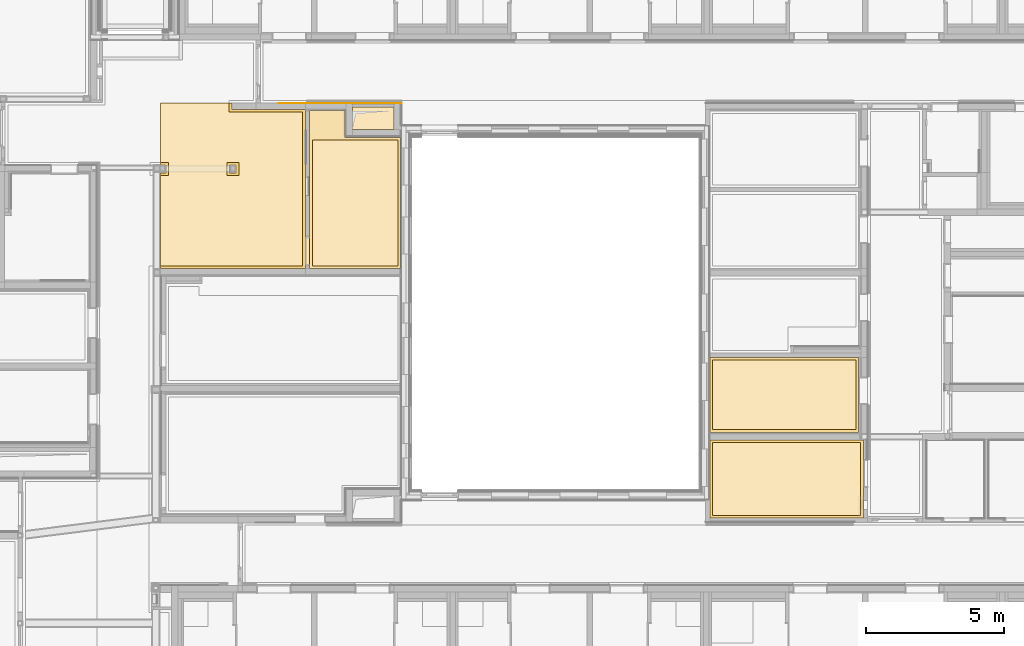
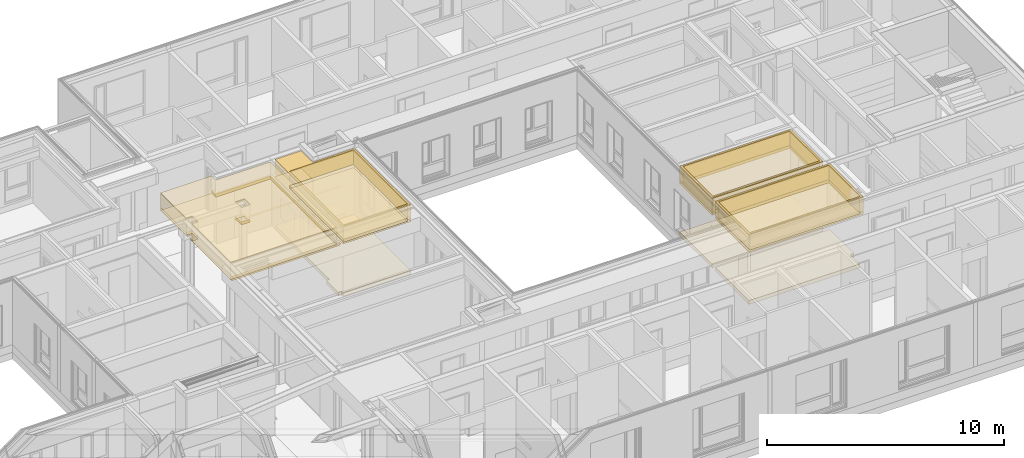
# One storey, part 183 of 207: 34 coverings.
"""IFC4 building model written with IfcOpenShell, lengths in metres."""

from ifc_helpers import new_model, entity, si_unit, converted_unit, derived_unit, frame, frame_2d, origin, origin_with_axes, place, context, subcontext, project, spatial, polyline, rectangle, outline, extrude, material, layer, layer_set, layer_usage, element, save


model = new_model("IFC4")

# Units and contexts
model_context = context("Model", 3, precision=1e-05, world=origin())
body_context = subcontext(model_context, "Body", "Model", "MODEL_VIEW")
ifc_project = project(units=[si_unit("LENGTHUNIT", "METRE"), si_unit("AREAUNIT", "SQUARE_METRE"), si_unit("VOLUMEUNIT", "CUBIC_METRE"), si_unit("MASSUNIT", "GRAM", prefix="KILO"), converted_unit("PLANEANGLEUNIT", "DEGREE", entity("IfcPlaneAngleMeasure", 0.0174532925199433), si_unit("PLANEANGLEUNIT", "RADIAN"), dimensions=[0, 0, 0, 0, 0, 0, 0]), derived_unit("THERMALTRANSMITTANCEUNIT", [(si_unit("POWERUNIT", "WATT"), 1), (si_unit("THERMODYNAMICTEMPERATUREUNIT", "KELVIN"), -1), (si_unit("LENGTHUNIT", "METRE"), -2)]), derived_unit("VOLUMETRICFLOWRATEUNIT", [(si_unit("LENGTHUNIT", "METRE"), 3), (converted_unit("TIMEUNIT", "hour", entity("IfcTimeMeasure", 3600.0), si_unit("TIMEUNIT", "SECOND"), dimensions=[0, 0, 1, 0, 0, 0, 0]), -1), (si_unit("LENGTHUNIT", "METRE"), -1)])], contexts=[model_context])

# Site, building, storey
site_placement = place(None, origin())
site = spatial("IfcSite", under=ifc_project, at=site_placement, Name="Psychiatrie Neubau Wunstorf", CompositionType="ELEMENT")
building_placement = place(site_placement, origin())
building = spatial("IfcBuilding", under=site, at=building_placement, Name="Neubau H2 Stationsgebäude", CompositionType="ELEMENT")
storey_placement = place(building_placement, frame((0.0, 0.0, -0.2)))
storey = spatial("IfcBuildingStorey", under=building, at=storey_placement, Name="H2 Ebene 0", CompositionType="ELEMENT", Elevation=-0.2)

# Covering
ifc_material_1 = material(Name="SE")
ifc_layer_1 = layer(ifc_material_1, 0.19)
ifc_layer_set_1 = layer_set([ifc_layer_1])
ifc_layer_usage_1 = layer_usage(ifc_layer_set_1, "AXIS3", "POSITIVE", 0.0)
covering_1_placement = place(storey_placement, frame((77.4, 21.875, 0.0)))
element("IfcCovering", 1, at=covering_1_placement, inside=storey, material=ifc_layer_usage_1, Name="Estrich", PredefinedType="FLOORING", context=body_context, shape_type="SweptSolid", body=[
    extrude(rectangle(XDim=0.811, YDim=1.5, at=frame_2d((0.75, -0.4055), x_axis=(0.0, -1.0))), frame((0.0, 0.811, 0.0), z_axis=(0.0, 0.0, 1.0), x_axis=(1.0, 0.0, 0.0)), (0.0, 0.0, 1.0), 0.19),
])

# Space
space_1_placement = place(storey_placement, frame((74.055, 22.036, 0.0)))
space_1 = spatial("IfcSpace", under=storey, at=space_1_placement, Name="WUN-H2-E00-F09", CompositionType="ELEMENT")

# Covering
ifc_material_2 = material(Name="97")
ifc_layer_2 = layer(ifc_material_2, 0.001)
ifc_layer_set_2 = layer_set([ifc_layer_2])
ifc_layer_usage_2 = layer_usage(ifc_layer_set_2, "AXIS3", "POSITIVE", 0.0)
covering_2_placement = place(space_1_placement, frame((0.660000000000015, 0.800000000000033, 0.8)))
element("IfcCovering", 2, at=covering_2_placement, inside=space_1, material=ifc_layer_usage_2, Name="Handlauf", PredefinedType="CLADDING", context=body_context, shape_type="SweptSolid", body=[
    extrude(rectangle(XDim=0.1, YDim=4.46499963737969, at=frame_2d((2.23249981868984, 0.05), x_axis=(0.0, 1.0))), frame((0.0, 0.0, 0.1), z_axis=(0.0, 1.0, 0.0), x_axis=(1.0, 0.0, 0.0)), (0.0, 0.0, 1.0), 0.001),
])

# Space
space_2_placement = place(storey_placement, frame((70.4300000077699, 16.8325, 0.0)))
space_2 = spatial("IfcSpace", under=storey, at=space_2_placement, Name="WUN-H2-E00-F09a", CompositionType="ELEMENT")

# Coverings
ifc_material_3 = material(Name="A1")
ifc_layer_3 = layer(ifc_material_3, 0.15)
ifc_layer_set_3 = layer_set([ifc_layer_3])
ifc_layer_usage_3 = layer_usage(ifc_layer_set_3, "AXIS3", "POSITIVE", 0.0)
covering_3_placement = place(space_2_placement, frame((0.0, 0.0, 2.85)))
element("IfcCovering", 3, at=covering_3_placement, inside=space_2, material=ifc_layer_usage_3, Name="Gipsfaserplatten 2-lagig (BSK)", PredefinedType="CEILING", context=body_context, shape_type="SweptSolid", body=[
    extrude(outline(polyline([(0.0, 6.00350000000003), (0.0, 5.90350000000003), (5.15399755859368, 5.90350000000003), (5.15399755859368, 0.33200000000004), (2.48999462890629, 0.33200000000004), (2.48999462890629, 0.0), (2.59199755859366, 0.0), (2.59199755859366, 0.23200000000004), (5.25399755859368, 0.23200000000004), (5.25399755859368, 6.00350000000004), (0.0, 6.00350000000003)])), frame((2.43363635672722e-06, 6.00350000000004, 0.0), z_axis=(0.0, 0.0, -1.0), x_axis=(1.0, 0.0, 0.0)), (0.0, 0.0, 1.0), 0.15),
    extrude(outline(polyline([(0.432000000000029, 0.481998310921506), (0.0, 0.481998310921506), (0.0, 0.0), (0.432000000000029, 0.0), (0.432000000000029, 0.481998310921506)]), holes=[polyline([(0.1, 0.1), (0.1, 0.381999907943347), (0.331999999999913, 0.382), (0.331999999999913, 0.1), (0.1, 0.1)])]), frame((2.40999706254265, 3.8534951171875, 0.0), z_axis=(0.0, 0.0, -1.0), x_axis=(1.0, 0.0, 0.0)), (0.0, 0.0, 1.0), 0.15),
    extrude(outline(polyline([(0.296, 0.482000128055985), (2.43363635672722e-06, 0.482000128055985), (2.43363635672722e-06, 0.382000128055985), (0.196, 0.381997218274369), (0.196, 0.100000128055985), (0.0, 0.1000030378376), (0.0, 0.0), (0.296, 3.03783759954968e-06), (0.296, 0.482000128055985)])), frame((0.0, 3.8534981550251, 0.0), z_axis=(0.0, 0.0, -1.0), x_axis=(1.0, 0.0, 0.0)), (0.0, 0.0, 1.0), 0.15),
])
ifc_material_4 = material(Name="D1")
ifc_layer_4 = layer(ifc_material_4, 0.001)
ifc_layer_set_4 = layer_set([ifc_layer_4])
ifc_layer_usage_4 = layer_usage(ifc_layer_set_4, "AXIS3", "POSITIVE", 0.0)
covering_4_placement = place(space_2_placement, frame((0.0, 0.0, 2.7)))
element("IfcCovering", 4, at=covering_4_placement, inside=space_2, material=ifc_layer_usage_4, Name="Gipsfaserplatten 2-lagig (BSK)", PredefinedType="CEILING", context=body_context, shape_type="SweptSolid", body=[
    extrude(outline(polyline([(0.0, 6.00350000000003), (0.0, 5.90350000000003), (5.15399755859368, 5.90350000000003), (5.15399755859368, 0.33200000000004), (2.48999462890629, 0.33200000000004), (2.48999462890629, 0.0), (2.59199755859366, 0.0), (2.59199755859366, 0.23200000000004), (5.25399755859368, 0.23200000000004), (5.25399755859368, 6.00350000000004), (0.0, 6.00350000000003)])), frame((2.43363635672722e-06, 6.00350000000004, 0.0), z_axis=(0.0, 0.0, -1.0), x_axis=(1.0, 0.0, 0.0)), (0.0, 0.0, 1.0), 0.001),
    extrude(outline(polyline([(0.432000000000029, 0.481998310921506), (0.0, 0.481998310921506), (0.0, 0.0), (0.432000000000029, 0.0), (0.432000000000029, 0.481998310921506)]), holes=[polyline([(0.1, 0.1), (0.1, 0.381999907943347), (0.331999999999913, 0.382), (0.331999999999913, 0.1), (0.1, 0.1)])]), frame((2.40999706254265, 3.8534951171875, 0.0), z_axis=(0.0, 0.0, -1.0), x_axis=(1.0, 0.0, 0.0)), (0.0, 0.0, 1.0), 0.001),
    extrude(outline(polyline([(0.296, 0.482000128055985), (2.43363635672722e-06, 0.482000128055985), (2.43363635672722e-06, 0.382000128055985), (0.196, 0.381997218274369), (0.196, 0.100000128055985), (0.0, 0.1000030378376), (0.0, 0.0), (0.296, 3.03783759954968e-06), (0.296, 0.482000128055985)])), frame((0.0, 3.8534981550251, 0.0), z_axis=(0.0, 0.0, -1.0), x_axis=(1.0, 0.0, 0.0)), (0.0, 0.0, 1.0), 0.001),
])
ifc_material_5 = material()
ifc_layer_5 = layer(ifc_material_5, 0.036)
ifc_layer_set_5 = layer_set([ifc_layer_5])
ifc_layer_usage_5 = layer_usage(ifc_layer_set_5, "AXIS3", "POSITIVE", 0.0)
covering_5_placement = place(space_2_placement, frame((0.0, 0.100000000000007, 3.6)))
element("IfcCovering", 5, at=covering_5_placement, inside=space_2, material=ifc_layer_usage_5, Name="Gipsfaserplatten 2-lagig (BSK)", PredefinedType="CEILING", context=body_context, shape_type="SweptSolid", body=[
    extrude(outline(polyline([(0.0, 0.0), (2.48999706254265, 0.0), (2.48999706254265, 0.332000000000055), (5.15399999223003, 0.332000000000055), (5.15399999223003, 5.90350000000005), (2.43363635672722e-06, 5.90350000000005), (2.43363635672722e-06, 2.63200197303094), (0.296, 2.63200197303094), (0.296, 2.15000488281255), (0.0, 2.15000184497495), (0.0, 0.0)]), holes=[polyline([(2.40999706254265, 2.63200319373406), (2.84199706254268, 2.63200319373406), (2.84199706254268, 2.15000488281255), (2.40999706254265, 2.15000488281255), (2.40999706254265, 2.63200319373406)])]), frame((0.0, 5.90350000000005, 0.0), z_axis=(0.0, 0.0, -1.0), x_axis=(1.0, 0.0, 0.0)), (0.0, 0.0, 1.0), 0.036),
])
ifc_material_6 = material(Name="Installationshöhe")
ifc_layer_6 = layer(ifc_material_6, 0.714)
ifc_layer_set_6 = layer_set([ifc_layer_6])
ifc_layer_usage_6 = layer_usage(ifc_layer_set_6, "AXIS3", "POSITIVE", 0.0)
covering_6_placement = place(space_2_placement, frame((0.0, 0.100000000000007, 3.564)))
element("IfcCovering", 6, at=covering_6_placement, inside=space_2, material=ifc_layer_usage_6, Name="Gipsfaserplatten 2-lagig (BSK)", PredefinedType="CEILING", context=body_context, shape_type="SweptSolid", body=[
    extrude(outline(polyline([(0.0, 0.0), (2.48999706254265, 0.0), (2.48999706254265, 0.332000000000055), (5.15399999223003, 0.332000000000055), (5.15399999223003, 5.90350000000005), (2.43363635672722e-06, 5.90350000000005), (2.43363635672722e-06, 2.63200197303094), (0.296, 2.63200197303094), (0.296, 2.15000488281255), (0.0, 2.15000184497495), (0.0, 0.0)]), holes=[polyline([(2.40999706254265, 2.63200319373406), (2.84199706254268, 2.63200319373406), (2.84199706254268, 2.15000488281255), (2.40999706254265, 2.15000488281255), (2.40999706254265, 2.63200319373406)])]), frame((0.0, 5.90350000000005, 0.0), z_axis=(0.0, 0.0, -1.0), x_axis=(1.0, 0.0, 0.0)), (0.0, 0.0, 1.0), 0.714),
])
ifc_material_7 = material(Name="Aa")
ifc_layer_7 = layer(ifc_material_7, 0.15)
ifc_layer_set_7 = layer_set([ifc_layer_7])
ifc_layer_usage_7 = layer_usage(ifc_layer_set_7, "AXIS3", "POSITIVE", 0.0)
covering_7_placement = place(space_2_placement, frame((0.0, 0.100000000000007, 2.85)))
element("IfcCovering", 7, at=covering_7_placement, inside=space_2, material=ifc_layer_usage_7, Name="Gipsfaserplatten 2-lagig (BSK)", PredefinedType="CEILING", context=body_context, shape_type="SweptSolid", body=[
    extrude(outline(polyline([(0.0, 0.0), (2.48999706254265, 0.0), (2.48999706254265, 0.332000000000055), (5.15399999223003, 0.332000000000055), (5.15399999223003, 5.90350000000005), (2.43363635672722e-06, 5.90350000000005), (2.43363635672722e-06, 2.63200197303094), (0.296, 2.63200197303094), (0.296, 2.15000488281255), (0.0, 2.15000184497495), (0.0, 0.0)]), holes=[polyline([(2.40999706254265, 2.63200319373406), (2.84199706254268, 2.63200319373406), (2.84199706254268, 2.15000488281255), (2.40999706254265, 2.15000488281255), (2.40999706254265, 2.63200319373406)])]), frame((0.0, 5.90350000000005, 0.0), z_axis=(0.0, 0.0, -1.0), x_axis=(1.0, 0.0, 0.0)), (0.0, 0.0, 1.0), 0.15),
])
ifc_material_8 = material(Name="D1")
ifc_layer_8 = layer(ifc_material_8, 0.001)
ifc_layer_set_8 = layer_set([ifc_layer_8])
ifc_layer_usage_8 = layer_usage(ifc_layer_set_8, "AXIS3", "POSITIVE", 0.0)
covering_8_placement = place(space_2_placement, frame((0.0, 0.100000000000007, 2.7)))
element("IfcCovering", 8, at=covering_8_placement, inside=space_2, material=ifc_layer_usage_8, Name="Gipsfaserplatten 2-lagig (BSK)", PredefinedType="CEILING", context=body_context, shape_type="SweptSolid", body=[
    extrude(outline(polyline([(0.0, 0.0), (2.48999706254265, 0.0), (2.48999706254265, 0.332000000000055), (5.15399999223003, 0.332000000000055), (5.15399999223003, 5.90350000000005), (2.43363635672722e-06, 5.90350000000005), (2.43363635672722e-06, 2.63200197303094), (0.296, 2.63200197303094), (0.296, 2.15000488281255), (0.0, 2.15000184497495), (0.0, 0.0)]), holes=[polyline([(2.40999706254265, 2.63200319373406), (2.84199706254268, 2.63200319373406), (2.84199706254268, 2.15000488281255), (2.40999706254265, 2.15000488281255), (2.40999706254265, 2.63200319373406)])]), frame((0.0, 5.90350000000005, 0.0), z_axis=(0.0, 0.0, -1.0), x_axis=(1.0, 0.0, 0.0)), (0.0, 0.0, 1.0), 0.001),
])

# Space
space_3_placement = place(storey_placement, frame((75.834, 16.8325, 0.0)))
space_3 = spatial("IfcSpace", under=storey, at=space_3_placement, Name="WUN-H2-E00-056", CompositionType="ELEMENT")

# Coverings
ifc_material_9 = material(Name="Ku1")
ifc_layer_9 = layer(ifc_material_9, 0.2)
ifc_layer_set_9 = layer_set([ifc_layer_9])
ifc_layer_usage_9 = layer_usage(ifc_layer_set_9, "AXIS3", "POSITIVE", 0.0)
covering_9_placement = place(space_3_placement, frame((-0.15, 0.0, 0.0)))
element("IfcCovering", 9, at=covering_9_placement, inside=space_3, material=ifc_layer_usage_9, Name="PVC Bahnenware Holzoptik", PredefinedType="FLOORING", context=body_context, shape_type="SweptSolid", body=[
    extrude(rectangle(XDim=0.15, YDim=1.01, at=frame_2d((-0.075, -0.505), x_axis=(-1.0, 0.0))), frame((0.15, 1.135, 0.0), z_axis=(0.0, 0.0, 1.0), x_axis=(1.0, 0.0, 0.0)), (0.0, 0.0, 1.0), 0.2),
    extrude(outline(polyline([(0.0, 0.0), (3.30500000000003, 0.0), (3.305, 4.76250036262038), (1.28600036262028, 4.76250036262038), (1.28600036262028, 5.73150000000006), (0.0, 5.7315), (0.0, 0.0)])), frame((0.15, 0.0, 0.0), z_axis=(0.0, 0.0, 1.0), x_axis=(1.0, 0.0, 0.0)), (0.0, 0.0, 1.0), 0.2),
])
ifc_material_10 = material()
ifc_layer_10 = layer(ifc_material_10, 0.036)
ifc_layer_set_10 = layer_set([ifc_layer_10])
ifc_layer_usage_10 = layer_usage(ifc_layer_set_10, "AXIS3", "POSITIVE", 0.0)
covering_10_placement = place(space_3_placement, frame((0.0, 0.0, 3.6)))
element("IfcCovering", 10, at=covering_10_placement, inside=space_3, material=ifc_layer_usage_10, Name="Gipsfaserplatten 2-lagig (BSK)", PredefinedType="CEILING", context=body_context, shape_type="SweptSolid", body=[
    extrude(outline(polyline([(0.0, 0.0), (1.28600036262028, 0.0), (1.28600036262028, 0.968999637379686), (3.30500000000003, 0.968999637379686), (3.30500000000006, 5.73150000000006), (0.0, 5.73150000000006), (0.0, 0.0)]), holes=[polyline([(0.100000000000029, 5.63150000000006), (3.20500000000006, 5.63150000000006), (3.20500000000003, 1.06899963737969), (0.1, 1.06900000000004), (0.100000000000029, 5.63150000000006)])]), frame((0.0, 5.73150000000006, 0.0), z_axis=(0.0, 0.0, -1.0), x_axis=(1.0, 0.0, 0.0)), (0.0, 0.0, 1.0), 0.036),
])
ifc_material_11 = material(Name="Installationshöhe")
ifc_layer_11 = layer(ifc_material_11, 0.714)
ifc_layer_set_11 = layer_set([ifc_layer_11])
ifc_layer_usage_11 = layer_usage(ifc_layer_set_11, "AXIS3", "POSITIVE", 0.0)
covering_11_placement = place(space_3_placement, frame((0.0, 0.0, 3.564)))
element("IfcCovering", 11, at=covering_11_placement, inside=space_3, material=ifc_layer_usage_11, Name="Gipsfaserplatten 2-lagig (BSK)", PredefinedType="CEILING", context=body_context, shape_type="SweptSolid", body=[
    extrude(outline(polyline([(0.0, 0.0), (1.28600036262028, 0.0), (1.28600036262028, 0.968999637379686), (3.30500000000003, 0.968999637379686), (3.30500000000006, 5.73150000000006), (0.0, 5.73150000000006), (0.0, 0.0)]), holes=[polyline([(0.100000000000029, 5.63150000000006), (3.20500000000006, 5.63150000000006), (3.20500000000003, 1.06899963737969), (0.1, 1.06900000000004), (0.100000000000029, 5.63150000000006)])]), frame((0.0, 5.73150000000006, 0.0), z_axis=(0.0, 0.0, -1.0), x_axis=(1.0, 0.0, 0.0)), (0.0, 0.0, 1.0), 0.714),
])
ifc_material_12 = material(Name="A1")
ifc_layer_12 = layer(ifc_material_12, 0.15)
ifc_layer_set_12 = layer_set([ifc_layer_12])
ifc_layer_usage_12 = layer_usage(ifc_layer_set_12, "AXIS3", "POSITIVE", 0.0)
covering_12_placement = place(space_3_placement, frame((0.0, 0.0, 2.85)))
element("IfcCovering", 12, at=covering_12_placement, inside=space_3, material=ifc_layer_usage_12, Name="Gipsfaserplatten 2-lagig (BSK)", PredefinedType="CEILING", context=body_context, shape_type="SweptSolid", body=[
    extrude(outline(polyline([(0.0, 0.0), (1.28600036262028, 0.0), (1.28600036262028, 0.968999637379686), (3.30500000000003, 0.968999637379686), (3.30500000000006, 5.73150000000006), (0.0, 5.73150000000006), (0.0, 0.0)]), holes=[polyline([(0.100000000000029, 5.63150000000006), (3.20500000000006, 5.63150000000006), (3.20500000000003, 1.06899963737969), (0.1, 1.06900000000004), (0.100000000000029, 5.63150000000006)])]), frame((0.0, 5.73150000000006, 0.0), z_axis=(0.0, 0.0, -1.0), x_axis=(1.0, 0.0, 0.0)), (0.0, 0.0, 1.0), 0.15),
])
ifc_material_13 = material(Name="D1")
ifc_layer_13 = layer(ifc_material_13, 0.001)
ifc_layer_set_13 = layer_set([ifc_layer_13])
ifc_layer_usage_13 = layer_usage(ifc_layer_set_13, "AXIS3", "POSITIVE", 0.0)
covering_13_placement = place(space_3_placement, frame((0.0, 0.0, 2.7)))
element("IfcCovering", 13, at=covering_13_placement, inside=space_3, material=ifc_layer_usage_13, Name="Gipsfaserplatten 2-lagig (BSK)", PredefinedType="CEILING", context=body_context, shape_type="SweptSolid", body=[
    extrude(outline(polyline([(0.0, 0.0), (1.28600036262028, 0.0), (1.28600036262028, 0.968999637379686), (3.30500000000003, 0.968999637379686), (3.30500000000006, 5.73150000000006), (0.0, 5.73150000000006), (0.0, 0.0)]), holes=[polyline([(0.100000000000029, 5.63150000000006), (3.20500000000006, 5.63150000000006), (3.20500000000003, 1.06899963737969), (0.1, 1.06900000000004), (0.100000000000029, 5.63150000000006)])]), frame((0.0, 5.73150000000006, 0.0), z_axis=(0.0, 0.0, -1.0), x_axis=(1.0, 0.0, 0.0)), (0.0, 0.0, 1.0), 0.001),
])
ifc_material_14 = material()
ifc_layer_14 = layer(ifc_material_14, 0.036)
ifc_layer_set_14 = layer_set([ifc_layer_14])
ifc_layer_usage_14 = layer_usage(ifc_layer_set_14, "AXIS3", "POSITIVE", 0.0)
covering_14_placement = place(space_3_placement, frame((0.1, 0.1, 3.6)))
element("IfcCovering", 14, at=covering_14_placement, inside=space_3, material=ifc_layer_usage_14, Name="Gipsfaserplatten 2-lagig (BSK)", PredefinedType="CEILING", context=body_context, shape_type="SweptSolid", body=[
    extrude(rectangle(XDim=4.56250000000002, YDim=3.10500000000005, at=frame_2d((1.5525, -2.28125018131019), x_axis=(-6.3789217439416e-15, -1.0))), frame((0.0, 0.0, 0.0), z_axis=(0.0, 0.0, -1.0), x_axis=(1.0, 0.0, 0.0)), (0.0, 0.0, 1.0), 0.036),
])
ifc_material_15 = material(Name="Installationshöhe")
ifc_layer_15 = layer(ifc_material_15, 0.714)
ifc_layer_set_15 = layer_set([ifc_layer_15])
ifc_layer_usage_15 = layer_usage(ifc_layer_set_15, "AXIS3", "POSITIVE", 0.0)
covering_15_placement = place(space_3_placement, frame((0.1, 0.1, 3.564)))
element("IfcCovering", 15, at=covering_15_placement, inside=space_3, material=ifc_layer_usage_15, Name="Gipsfaserplatten 2-lagig (BSK)", PredefinedType="CEILING", context=body_context, shape_type="SweptSolid", body=[
    extrude(rectangle(XDim=4.56250000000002, YDim=3.10500000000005, at=frame_2d((1.5525, -2.28125018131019), x_axis=(-6.3789217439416e-15, -1.0))), frame((0.0, 0.0, 0.0), z_axis=(0.0, 0.0, -1.0), x_axis=(1.0, 0.0, 0.0)), (0.0, 0.0, 1.0), 0.714),
])
ifc_material_16 = material(Name="Aa")
ifc_layer_16 = layer(ifc_material_16, 0.15)
ifc_layer_set_16 = layer_set([ifc_layer_16])
ifc_layer_usage_16 = layer_usage(ifc_layer_set_16, "AXIS3", "POSITIVE", 0.0)
covering_16_placement = place(space_3_placement, frame((0.1, 0.1, 2.85)))
element("IfcCovering", 16, at=covering_16_placement, inside=space_3, material=ifc_layer_usage_16, Name="Gipsfaserplatten 2-lagig (BSK)", PredefinedType="CEILING", context=body_context, shape_type="SweptSolid", body=[
    extrude(rectangle(XDim=4.56250000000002, YDim=3.10500000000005, at=frame_2d((1.5525, -2.28125018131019), x_axis=(-6.3789217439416e-15, -1.0))), frame((0.0, 0.0, 0.0), z_axis=(0.0, 0.0, -1.0), x_axis=(1.0, 0.0, 0.0)), (0.0, 0.0, 1.0), 0.15),
])
ifc_material_17 = material(Name="D1")
ifc_layer_17 = layer(ifc_material_17, 0.001)
ifc_layer_set_17 = layer_set([ifc_layer_17])
ifc_layer_usage_17 = layer_usage(ifc_layer_set_17, "AXIS3", "POSITIVE", 0.0)
covering_17_placement = place(space_3_placement, frame((0.1, 0.1, 2.7)))
element("IfcCovering", 17, at=covering_17_placement, inside=space_3, material=ifc_layer_usage_17, Name="Gipsfaserplatten 2-lagig (BSK)", PredefinedType="CEILING", context=body_context, shape_type="SweptSolid", body=[
    extrude(rectangle(XDim=4.56250000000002, YDim=3.10500000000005, at=frame_2d((1.5525, -2.28125018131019), x_axis=(-6.3789217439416e-15, -1.0))), frame((0.0, 0.0, 0.0), z_axis=(0.0, 0.0, -1.0), x_axis=(1.0, 0.0, 0.0)), (0.0, 0.0, 1.0), 0.001),
])

# Space
space_4_placement = place(storey_placement, frame((90.361, 10.8824998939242, 0.0)))
space_4 = spatial("IfcSpace", under=storey, at=space_4_placement, Name="WUN-H2-E00-083", CompositionType="ELEMENT")

# Coverings
ifc_material_18 = material(Name="Ku1")
ifc_layer_18 = layer(ifc_material_18, 0.2)
ifc_layer_set_18 = layer_set([ifc_layer_18])
ifc_layer_usage_18 = layer_usage(ifc_layer_set_18, "AXIS3", "POSITIVE", 0.0)
covering_18_placement = place(space_4_placement, origin())
element("IfcCovering", 18, at=covering_18_placement, inside=space_4, material=ifc_layer_usage_18, Name="PVC Bahnenware Holzoptik", PredefinedType="FLOORING", context=body_context, shape_type="SweptSolid", body=[
    extrude(rectangle(XDim=2.72850007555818, YDim=5.4, at=frame_2d((2.7, -1.36425003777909), x_axis=(0.0, -1.0))), frame((0.0, 2.72850007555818, 0.0), z_axis=(0.0, 0.0, 1.0), x_axis=(1.0, 0.0, 0.0)), (0.0, 0.0, 1.0), 0.2),
])
ifc_material_19 = material()
ifc_layer_19 = layer(ifc_material_19, 0.036)
ifc_layer_set_19 = layer_set([ifc_layer_19])
ifc_layer_usage_19 = layer_usage(ifc_layer_set_19, "AXIS3", "POSITIVE", 0.0)
covering_19_placement = place(space_4_placement, frame((0.0, 0.0, 3.6)))
element("IfcCovering", 19, at=covering_19_placement, inside=space_4, material=ifc_layer_usage_19, Name="Gipsfaserplatten 2-lagig (BSK)", PredefinedType="CEILING", context=body_context, shape_type="SweptSolid", body=[
    extrude(outline(polyline([(0.0, 0.0), (5.4, 0.0), (5.4, 2.72850007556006), (0.0, 2.72850007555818), (0.0, 0.0)]), holes=[polyline([(0.0999999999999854, 2.62850007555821), (5.29999997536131, 2.62850007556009), (5.29999997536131, 0.0999999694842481), (0.0999999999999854, 0.0999999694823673), (0.0999999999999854, 2.62850007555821)])]), frame((0.0, 2.72850007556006, 0.0), z_axis=(0.0, 0.0, -1.0), x_axis=(1.0, 0.0, 0.0)), (0.0, 0.0, 1.0), 0.036),
])
ifc_material_20 = material(Name="Installationshöhe")
ifc_layer_20 = layer(ifc_material_20, 0.714)
ifc_layer_set_20 = layer_set([ifc_layer_20])
ifc_layer_usage_20 = layer_usage(ifc_layer_set_20, "AXIS3", "POSITIVE", 0.0)
covering_20_placement = place(space_4_placement, frame((0.0, 0.0, 3.564)))
element("IfcCovering", 20, at=covering_20_placement, inside=space_4, material=ifc_layer_usage_20, Name="Gipsfaserplatten 2-lagig (BSK)", PredefinedType="CEILING", context=body_context, shape_type="SweptSolid", body=[
    extrude(outline(polyline([(0.0, 0.0), (5.4, 0.0), (5.4, 2.72850007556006), (0.0, 2.72850007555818), (0.0, 0.0)]), holes=[polyline([(0.0999999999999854, 2.62850007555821), (5.29999997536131, 2.62850007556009), (5.29999997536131, 0.0999999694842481), (0.0999999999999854, 0.0999999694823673), (0.0999999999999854, 2.62850007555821)])]), frame((0.0, 2.72850007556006, 0.0), z_axis=(0.0, 0.0, -1.0), x_axis=(1.0, 0.0, 0.0)), (0.0, 0.0, 1.0), 0.714),
])
ifc_material_21 = material(Name="A1")
ifc_layer_21 = layer(ifc_material_21, 0.15)
ifc_layer_set_21 = layer_set([ifc_layer_21])
ifc_layer_usage_21 = layer_usage(ifc_layer_set_21, "AXIS3", "POSITIVE", 0.0)
covering_21_placement = place(space_4_placement, frame((0.0, 0.0, 2.85)))
element("IfcCovering", 21, at=covering_21_placement, inside=space_4, material=ifc_layer_usage_21, Name="Gipsfaserplatten 2-lagig (BSK)", PredefinedType="CEILING", context=body_context, shape_type="SweptSolid", body=[
    extrude(outline(polyline([(0.0, 0.0), (5.4, 0.0), (5.4, 2.72850007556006), (0.0, 2.72850007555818), (0.0, 0.0)]), holes=[polyline([(0.0999999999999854, 2.62850007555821), (5.29999997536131, 2.62850007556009), (5.29999997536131, 0.0999999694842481), (0.0999999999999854, 0.0999999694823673), (0.0999999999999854, 2.62850007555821)])]), frame((0.0, 2.72850007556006, 0.0), z_axis=(0.0, 0.0, -1.0), x_axis=(1.0, 0.0, 0.0)), (0.0, 0.0, 1.0), 0.15),
])
ifc_material_22 = material(Name="D1")
ifc_layer_22 = layer(ifc_material_22, 0.001)
ifc_layer_set_22 = layer_set([ifc_layer_22])
ifc_layer_usage_22 = layer_usage(ifc_layer_set_22, "AXIS3", "POSITIVE", 0.0)
covering_22_placement = place(space_4_placement, frame((0.0, 0.0, 2.7)))
element("IfcCovering", 22, at=covering_22_placement, inside=space_4, material=ifc_layer_usage_22, Name="Gipsfaserplatten 2-lagig (BSK)", PredefinedType="CEILING", context=body_context, shape_type="SweptSolid", body=[
    extrude(outline(polyline([(0.0, 0.0), (5.4, 0.0), (5.4, 2.72850007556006), (0.0, 2.72850007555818), (0.0, 0.0)]), holes=[polyline([(0.0999999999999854, 2.62850007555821), (5.29999997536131, 2.62850007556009), (5.29999997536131, 0.0999999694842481), (0.0999999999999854, 0.0999999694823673), (0.0999999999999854, 2.62850007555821)])]), frame((0.0, 2.72850007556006, 0.0), z_axis=(0.0, 0.0, -1.0), x_axis=(1.0, 0.0, 0.0)), (0.0, 0.0, 1.0), 0.001),
])
ifc_material_23 = material()
ifc_layer_23 = layer(ifc_material_23, 0.036)
ifc_layer_set_23 = layer_set([ifc_layer_23])
ifc_layer_usage_23 = layer_usage(ifc_layer_set_23, "AXIS3", "POSITIVE", 0.0)
covering_23_placement = place(space_4_placement, frame((0.0999999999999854, 0.0999999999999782, 3.6)))
element("IfcCovering", 23, at=covering_23_placement, inside=space_4, material=ifc_layer_usage_23, Name="Gipsfaserplatten 2-lagig (BSK)", PredefinedType="CEILING", context=body_context, shape_type="SweptSolid", body=[
    extrude(rectangle(XDim=2.52850010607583, YDim=5.19999997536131, at=frame_2d((2.59999998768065, -1.26425005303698), x_axis=(0.0, -1.0))), frame((0.0, 0.0, 0.0), z_axis=(0.0, 0.0, -1.0), x_axis=(1.0, 0.0, 0.0)), (0.0, 0.0, 1.0), 0.036),
])
ifc_material_24 = material(Name="Installationshöhe")
ifc_layer_24 = layer(ifc_material_24, 0.714)
ifc_layer_set_24 = layer_set([ifc_layer_24])
ifc_layer_usage_24 = layer_usage(ifc_layer_set_24, "AXIS3", "POSITIVE", 0.0)
covering_24_placement = place(space_4_placement, frame((0.0999999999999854, 0.0999999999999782, 3.564)))
element("IfcCovering", 24, at=covering_24_placement, inside=space_4, material=ifc_layer_usage_24, Name="Gipsfaserplatten 2-lagig (BSK)", PredefinedType="CEILING", context=body_context, shape_type="SweptSolid", body=[
    extrude(rectangle(XDim=2.52850010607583, YDim=5.19999997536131, at=frame_2d((2.59999998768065, -1.26425005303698), x_axis=(0.0, -1.0))), frame((0.0, 0.0, 0.0), z_axis=(0.0, 0.0, -1.0), x_axis=(1.0, 0.0, 0.0)), (0.0, 0.0, 1.0), 0.714),
])
ifc_material_25 = material(Name="Aa")
ifc_layer_25 = layer(ifc_material_25, 0.15)
ifc_layer_set_25 = layer_set([ifc_layer_25])
ifc_layer_usage_25 = layer_usage(ifc_layer_set_25, "AXIS3", "POSITIVE", 0.0)
covering_25_placement = place(space_4_placement, frame((0.0999999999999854, 0.0999999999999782, 2.85)))
element("IfcCovering", 25, at=covering_25_placement, inside=space_4, material=ifc_layer_usage_25, Name="Gipsfaserplatten 2-lagig (BSK)", PredefinedType="CEILING", context=body_context, shape_type="SweptSolid", body=[
    extrude(rectangle(XDim=2.52850010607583, YDim=5.19999997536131, at=frame_2d((2.59999998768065, -1.26425005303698), x_axis=(0.0, -1.0))), frame((0.0, 0.0, 0.0), z_axis=(0.0, 0.0, -1.0), x_axis=(1.0, 0.0, 0.0)), (0.0, 0.0, 1.0), 0.15),
])

# Space
space_5_placement = place(storey_placement, frame((90.361, 7.77499990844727, 0.0)))
space_5 = spatial("IfcSpace", under=storey, at=space_5_placement, Name="WUN-H2-E00-082", CompositionType="ELEMENT")

# Coverings
ifc_material_26 = material(Name="Ku1")
ifc_layer_26 = layer(ifc_material_26, 0.2)
ifc_layer_set_26 = layer_set([ifc_layer_26])
ifc_layer_usage_26 = layer_usage(ifc_layer_set_26, "AXIS3", "POSITIVE", 0.0)
covering_26_placement = place(space_5_placement, origin())
element("IfcCovering", 26, at=covering_26_placement, inside=space_5, material=ifc_layer_usage_26, Name="PVC Bahnenware Holzoptik", PredefinedType="FLOORING", context=body_context, shape_type="SweptSolid", body=[
    extrude(outline(polyline([(5.39650003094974, 0.789999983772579), (5.57150003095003, 0.789999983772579), (5.57150003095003, 2.83549998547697), (0.0, 2.83549998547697), (0.0, 0.0), (5.39650003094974, 0.0), (5.39650003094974, 0.789999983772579)])), origin_with_axes(), (0.0, 0.0, 1.0), 0.2),
])
ifc_material_27 = material()
ifc_layer_27 = layer(ifc_material_27, 0.036)
ifc_layer_set_27 = layer_set([ifc_layer_27])
ifc_layer_usage_27 = layer_usage(ifc_layer_set_27, "AXIS3", "POSITIVE", 0.0)
covering_27_placement = place(space_5_placement, frame((0.1, 0.0999999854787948, 3.6)))
element("IfcCovering", 27, at=covering_27_placement, inside=space_5, material=ifc_layer_usage_27, Name="Gipsfaserplatten 2-lagig (BSK)", PredefinedType="CEILING", context=body_context, shape_type="SweptSolid", body=[
    extrude(rectangle(XDim=2.63550000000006, YDim=5.37150003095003, at=frame_2d((-2.68575001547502, 1.31775000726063), x_axis=(0.0, 1.0))), frame((5.37150003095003, 2.63550001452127, 0.0), z_axis=(0.0, 0.0, -1.0), x_axis=(1.0, 0.0, 0.0)), (0.0, 0.0, 1.0), 0.036),
])
ifc_material_28 = material(Name="Installationshöhe")
ifc_layer_28 = layer(ifc_material_28, 0.714)
ifc_layer_set_28 = layer_set([ifc_layer_28])
ifc_layer_usage_28 = layer_usage(ifc_layer_set_28, "AXIS3", "POSITIVE", 0.0)
covering_28_placement = place(space_5_placement, frame((0.1, 0.0999999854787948, 3.564)))
element("IfcCovering", 28, at=covering_28_placement, inside=space_5, material=ifc_layer_usage_28, Name="Gipsfaserplatten 2-lagig (BSK)", PredefinedType="CEILING", context=body_context, shape_type="SweptSolid", body=[
    extrude(rectangle(XDim=2.63550000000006, YDim=5.37150003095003, at=frame_2d((-2.68575001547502, 1.31775000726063), x_axis=(0.0, 1.0))), frame((5.37150003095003, 2.63550001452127, 0.0), z_axis=(0.0, 0.0, -1.0), x_axis=(1.0, 0.0, 0.0)), (0.0, 0.0, 1.0), 0.714),
])
ifc_material_29 = material(Name="Aa")
ifc_layer_29 = layer(ifc_material_29, 0.15)
ifc_layer_set_29 = layer_set([ifc_layer_29])
ifc_layer_usage_29 = layer_usage(ifc_layer_set_29, "AXIS3", "POSITIVE", 0.0)
covering_29_placement = place(space_5_placement, frame((0.1, 0.0999999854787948, 2.85)))
element("IfcCovering", 29, at=covering_29_placement, inside=space_5, material=ifc_layer_usage_29, Name="Gipsfaserplatten 2-lagig (BSK)", PredefinedType="CEILING", context=body_context, shape_type="SweptSolid", body=[
    extrude(rectangle(XDim=2.63550000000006, YDim=5.37150003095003, at=frame_2d((-2.68575001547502, 1.31775000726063), x_axis=(0.0, 1.0))), frame((5.37150003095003, 2.63550001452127, 0.0), z_axis=(0.0, 0.0, -1.0), x_axis=(1.0, 0.0, 0.0)), (0.0, 0.0, 1.0), 0.15),
])
ifc_material_30 = material(Name="D1")
ifc_layer_30 = layer(ifc_material_30, 0.001)
ifc_layer_set_30 = layer_set([ifc_layer_30])
ifc_layer_usage_30 = layer_usage(ifc_layer_set_30, "AXIS3", "POSITIVE", 0.0)
covering_30_placement = place(space_5_placement, frame((0.1, 0.0999999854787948, 2.7)))
element("IfcCovering", 30, at=covering_30_placement, inside=space_5, material=ifc_layer_usage_30, Name="Gipsfaserplatten 2-lagig (BSK)", PredefinedType="CEILING", context=body_context, shape_type="SweptSolid", body=[
    extrude(rectangle(XDim=2.63550000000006, YDim=5.37150003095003, at=frame_2d((-2.68575001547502, 1.31775000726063), x_axis=(0.0, 1.0))), frame((5.37150003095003, 2.63550001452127, 0.0), z_axis=(0.0, 0.0, -1.0), x_axis=(1.0, 0.0, 0.0)), (0.0, 0.0, 1.0), 0.001),
])
ifc_material_31 = material()
ifc_layer_31 = layer(ifc_material_31, 0.036)
ifc_layer_set_31 = layer_set([ifc_layer_31])
ifc_layer_usage_31 = layer_usage(ifc_layer_set_31, "AXIS3", "POSITIVE", 0.0)
covering_31_placement = place(space_5_placement, frame((0.0, 0.0, 3.6)))
element("IfcCovering", 31, at=covering_31_placement, inside=space_5, material=ifc_layer_usage_31, Name="Gipsfaserplatten 2-lagig (BSK)", PredefinedType="CEILING", context=body_context, shape_type="SweptSolid", body=[
    extrude(outline(polyline([(0.0, 2.83549998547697), (0.0, 0.0), (5.57150003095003, 0.0), (5.57150003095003, 2.83549998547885), (0.0, 2.83549998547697)]), holes=[polyline([(5.47150003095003, 2.73549998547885), (5.47150003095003, 0.0999999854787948), (0.1, 0.1), (0.1, 2.73550000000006), (5.47150003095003, 2.73549998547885)])]), frame((0.0, 2.83549998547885, 0.0), z_axis=(0.0, 0.0, -1.0), x_axis=(1.0, 0.0, 0.0)), (0.0, 0.0, 1.0), 0.036),
])
ifc_material_32 = material(Name="Installationshöhe")
ifc_layer_32 = layer(ifc_material_32, 0.714)
ifc_layer_set_32 = layer_set([ifc_layer_32])
ifc_layer_usage_32 = layer_usage(ifc_layer_set_32, "AXIS3", "POSITIVE", 0.0)
covering_32_placement = place(space_5_placement, frame((0.0, 0.0, 3.564)))
element("IfcCovering", 32, at=covering_32_placement, inside=space_5, material=ifc_layer_usage_32, Name="Gipsfaserplatten 2-lagig (BSK)", PredefinedType="CEILING", context=body_context, shape_type="SweptSolid", body=[
    extrude(outline(polyline([(0.0, 2.83549998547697), (0.0, 0.0), (5.57150003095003, 0.0), (5.57150003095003, 2.83549998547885), (0.0, 2.83549998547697)]), holes=[polyline([(5.47150003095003, 2.73549998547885), (5.47150003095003, 0.0999999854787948), (0.1, 0.1), (0.1, 2.73550000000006), (5.47150003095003, 2.73549998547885)])]), frame((0.0, 2.83549998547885, 0.0), z_axis=(0.0, 0.0, -1.0), x_axis=(1.0, 0.0, 0.0)), (0.0, 0.0, 1.0), 0.714),
])
ifc_material_33 = material(Name="A1")
ifc_layer_33 = layer(ifc_material_33, 0.15)
ifc_layer_set_33 = layer_set([ifc_layer_33])
ifc_layer_usage_33 = layer_usage(ifc_layer_set_33, "AXIS3", "POSITIVE", 0.0)
covering_33_placement = place(space_5_placement, frame((0.0, 0.0, 2.85)))
element("IfcCovering", 33, at=covering_33_placement, inside=space_5, material=ifc_layer_usage_33, Name="Gipsfaserplatten 2-lagig (BSK)", PredefinedType="CEILING", context=body_context, shape_type="SweptSolid", body=[
    extrude(outline(polyline([(0.0, 2.83549998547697), (0.0, 0.0), (5.57150003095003, 0.0), (5.57150003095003, 2.83549998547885), (0.0, 2.83549998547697)]), holes=[polyline([(5.47150003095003, 2.73549998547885), (5.47150003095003, 0.0999999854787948), (0.1, 0.1), (0.1, 2.73550000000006), (5.47150003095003, 2.73549998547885)])]), frame((0.0, 2.83549998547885, 0.0), z_axis=(0.0, 0.0, -1.0), x_axis=(1.0, 0.0, 0.0)), (0.0, 0.0, 1.0), 0.15),
])
ifc_material_34 = material(Name="D1")
ifc_layer_34 = layer(ifc_material_34, 0.001)
ifc_layer_set_34 = layer_set([ifc_layer_34])
ifc_layer_usage_34 = layer_usage(ifc_layer_set_34, "AXIS3", "POSITIVE", 0.0)
covering_34_placement = place(space_5_placement, frame((0.0, 0.0, 2.7)))
element("IfcCovering", 34, at=covering_34_placement, inside=space_5, material=ifc_layer_usage_34, Name="Gipsfaserplatten 2-lagig (BSK)", PredefinedType="CEILING", context=body_context, shape_type="SweptSolid", body=[
    extrude(outline(polyline([(0.0, 2.83549998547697), (0.0, 0.0), (5.57150003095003, 0.0), (5.57150003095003, 2.83549998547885), (0.0, 2.83549998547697)]), holes=[polyline([(5.47150003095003, 2.73549998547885), (5.47150003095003, 0.0999999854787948), (0.1, 0.1), (0.1, 2.73550000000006), (5.47150003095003, 2.73549998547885)])]), frame((0.0, 2.83549998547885, 0.0), z_axis=(0.0, 0.0, -1.0), x_axis=(1.0, 0.0, 0.0)), (0.0, 0.0, 1.0), 0.001),
])

save(model, "model.ifc")
